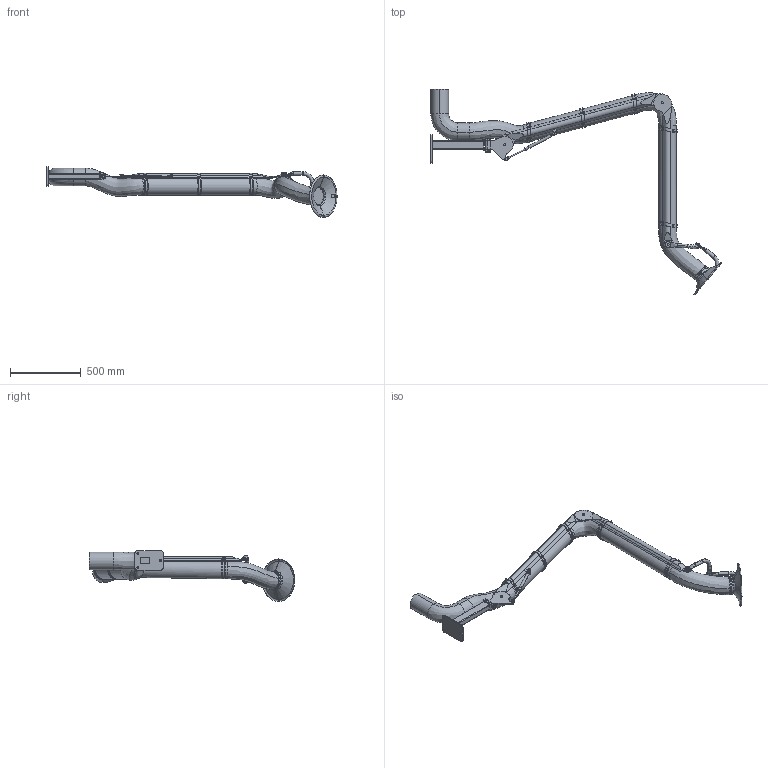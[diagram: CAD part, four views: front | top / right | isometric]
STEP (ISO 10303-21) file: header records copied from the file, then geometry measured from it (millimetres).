
FILE_DESCRIPTION((''),'2;1');
FILE_NAME('PSS_3000-125','2023-02-07T15:03:50',('Tomas Bellgran'),(''),'CREO PARAMETRIC BY PTC INC, 2018260','CREO PARAMETRIC BY PTC INC, 2018260','');
FILE_SCHEMA(('AUTOMOTIVE_DESIGN { 1 0 10303 214 1 1 1 1 }'));
Length unit declared in the file: millimetre
Products named in the file (31): 131085_LIGHT; 131041; 131045_LIGHT; 131045; 144355; 131150; 139381; 131151; 131171; 144356; 141589; 134343_AF0; G_P136_WELD-REF; 141590; 122717_LIGHT; 130317; ROD_STAB_8-160-REF; 131095; 130322_AF1; 131145; 131131_AF0; 131134_AF0; 131139; 107522; 132677; SKRUVSATS_LITEN; SKRUVSATS_BIG; SKRUVSATS_LITEN-2; SKRUVSATS_BIGGEST; 120127_COMPL_LIGHT; PSS_3000-125
Assembly tree (48 placements, depth 3):
  PSS_3000-125
    131041
      131085_LIGHT
    131045
      131045_LIGHT
    144355  x4
    131150
    131171
      139381
      131151
    144356  x2
    141590
      141589
      134343_AF0
      G_P136_WELD-REF
    122717_LIGHT
    130322_AF1
      130317
      ROD_STAB_8-160-REF
      131095  x2
    131145  x2
    131139  x5
      131131_AF0
      131134_AF0
    107522  x5
    132677
    SKRUVSATS_LITEN  x2
    SKRUVSATS_BIG  x2
    SKRUVSATS_LITEN-2  x2
    SKRUVSATS_BIGGEST  x2
    120127_COMPL_LIGHT
Bounding box: 2046.38 x 1450.18 x 359.45 mm (x, y, z)
Volume: 42993281.8 mm3; surface area: 2375564.9 mm2
Topology: 46 solids, 47 shells, 1096 faces, 2645 edges, 1813 vertices
Faces by surface type: plane 353, cylinder 338, bspline 308, torus 48, cone 42, extrusion 5, sphere 2
Entity records: 40742 total; most frequent: CARTESIAN_POINT 16976, DIRECTION 3102, ORIENTED_EDGE 2732, PRESENTATION_STYLE_ASSIGNMENT 1975, STYLED_ITEM 1948, CURVE_STYLE 1500, EDGE_CURVE 1366, AXIS2_PLACEMENT_3D 1209
